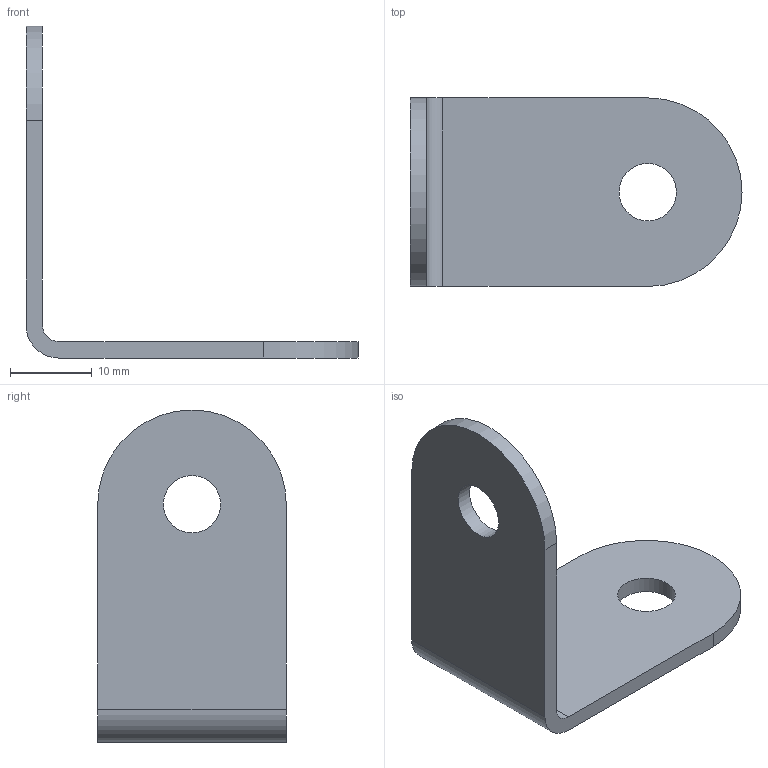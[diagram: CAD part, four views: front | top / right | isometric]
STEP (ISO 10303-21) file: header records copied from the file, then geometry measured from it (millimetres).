
FILE_DESCRIPTION(/* description */ (''),/* implementation_level */ '2;1');
FILE_NAME(/* name */ '\\NAS\db20\S-AGS2340\DR_S-AGS2340.stp',/* time_stamp */ '2017-10-12T16:23:22+09:00',/* author */ ('user'),/* organization */ (''),/* preprocessor_version */ 'ST-DEVELOPER v15.6',/* originating_system */ 'Autodesk Inventor 2015',/* authorisation */ '');
FILE_SCHEMA (('AUTOMOTIVE_DESIGN { 1 0 10303 214 3 1 1 }'));
Length unit declared in the file: millimetre
Products named in the file (1): DR_S-AGS2340
Bounding box: 40.5 x 23 x 40.5 mm (x, y, z)
Volume: 3193.8 mm3; surface area: 3645.1 mm2
Topology: 1 solids, 1 shells, 12 faces, 30 edges, 20 vertices
Faces by surface type: cylinder 6, plane 6
Full cylindrical faces by diameter (mm): 7 x2
Entity records: 388 total; most frequent: DIRECTION 66, CARTESIAN_POINT 61, ORIENTED_EDGE 56, EDGE_CURVE 28, AXIS2_PLACEMENT_3D 25, VERTEX_POINT 20, EDGE_LOOP 18, LINE 16
